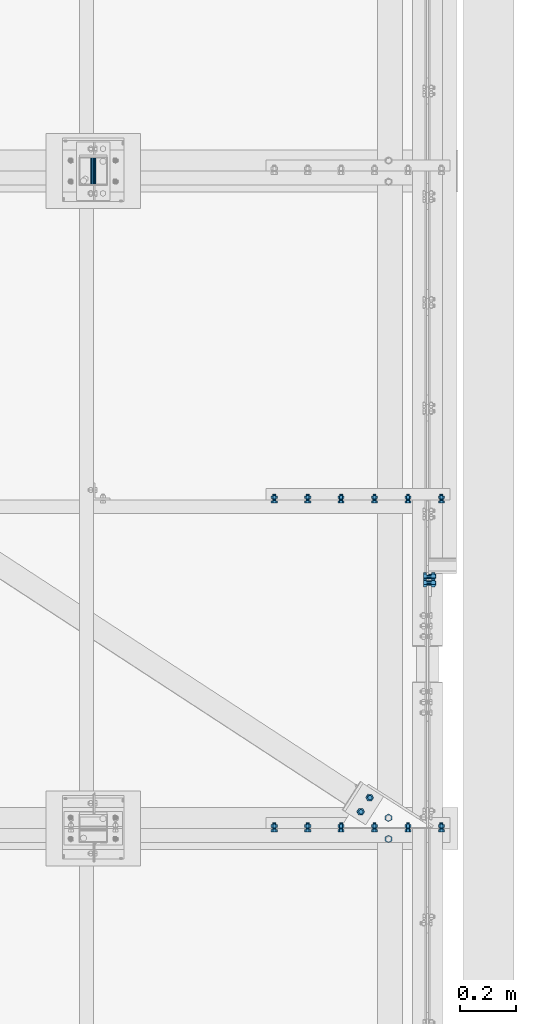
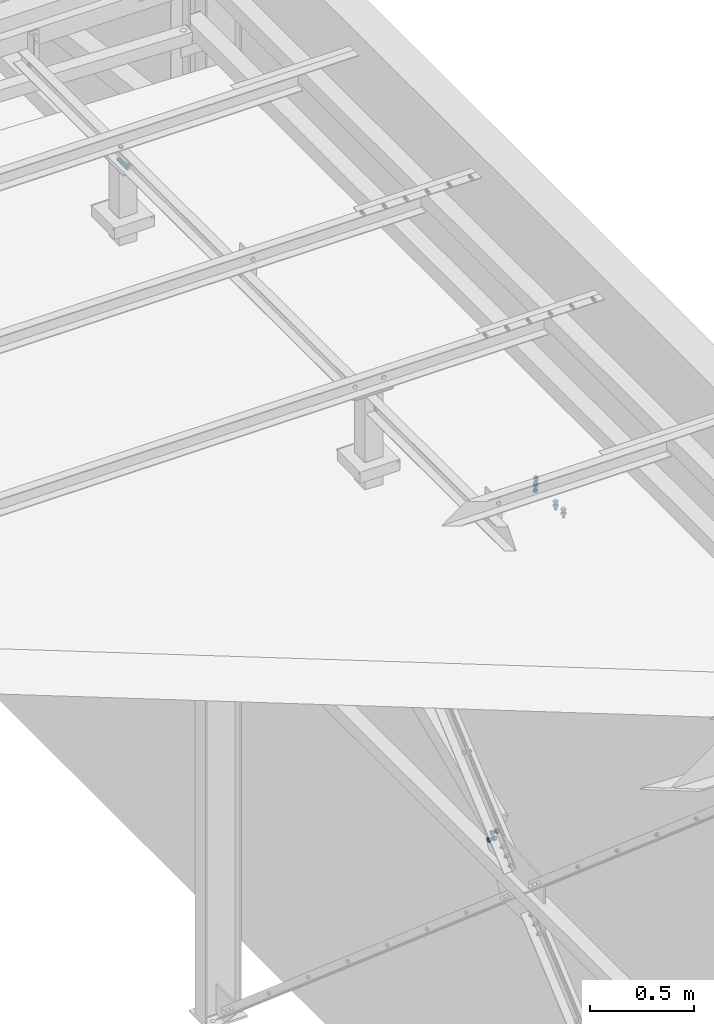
# One storey, part 347 of 3134: 6 mechanical fasteners, 6 elements without a shape of their own.
"""IFC2X3 building model written with IfcOpenShell, lengths in millimetres."""

import ifcopenshell
import ifcopenshell.guid

model = None  # the IFC model being written
_history = None  # IfcOwnerHistory: only IFC2X3 demands one
_inside = {}  # id of a spatial element -> (the spatial element, [elements in it])
_under = {}  # id of a project, library or spatial element -> (it, [spatial elements below it])
_declared = {}  # id of a project -> (the project, [libraries it declares])
_typed = {}  # id of a type object -> (the type object, [elements of that type])
_made_of = {}  # id of a material, layer set ... -> (it, [elements and type objects made of it])


def new_model(schema):
    """Start an empty IFC model of exactly this schema.

    Asked for "IFC4X3", IfcOpenShell would pick the latest addendum, in which some entities
    have other attributes; the version numbers below select the first issue.
    IFC2X3 requires an IfcOwnerHistory on every rooted entity: one is made here for all.
    """
    global model, _history
    if schema == "IFC4X3":
        model = ifcopenshell.file(schema_version=(4, 3, 0, 0))
    else:
        model = ifcopenshell.file(schema=schema)
    _inside.clear()
    _under.clear()
    _declared.clear()
    _typed.clear()
    _made_of.clear()
    _history = None
    if model.schema == "IFC2X3":
        org = make("IfcOrganization", Name="unknown")
        user = make(
            "IfcPersonAndOrganization",
            ThePerson=make("IfcPerson", FamilyName="unknown"),
            TheOrganization=org,
        )
        app = make(
            "IfcApplication",
            ApplicationDeveloper=org,
            Version="unknown",
            ApplicationFullName="unknown",
            ApplicationIdentifier="unknown",
        )
        _history = make(
            "IfcOwnerHistory",
            OwningUser=user,
            OwningApplication=app,
            ChangeAction="ADDED",
            CreationDate=0,
        )
    return model


def make(cls, **values):
    """One entity of the class cls with the attributes given. An attribute that is None is left unset."""
    return model.create_entity(
        cls, **{name: value for name, value in values.items() if value is not None}
    )


def rooted(cls, **values):
    """An entity with a GlobalId (a new one), such as an element, a storey or a relation."""
    return make(cls, GlobalId=ifcopenshell.guid.new(), OwnerHistory=_history, **values)


def si_unit(unit_type, name, prefix=None):
    """IfcSIUnit, for example si_unit("LENGTHUNIT", "METRE", prefix="MILLI")."""
    return make("IfcSIUnit", UnitType=unit_type, Prefix=prefix, Name=name)


def assignment(units):
    """IfcUnitAssignment: the units of a project."""
    return None if units is None else make("IfcUnitAssignment", Units=units)


def point(xyz):
    """IfcCartesianPoint."""
    return None if xyz is None else make("IfcCartesianPoint", Coordinates=xyz)


def direction(xyz):
    """IfcDirection."""
    return None if xyz is None else make("IfcDirection", DirectionRatios=xyz)


def frame(location, z_axis=None, x_axis=None):
    """IfcAxis2Placement3D, a coordinate frame: its origin and axes. An axis left out is left unset."""
    return make(
        "IfcAxis2Placement3D",
        Location=point(location),
        Axis=direction(z_axis),
        RefDirection=direction(x_axis),
    )


def origin_with_axes():
    """The frame at (0, 0, 0) with the z axis (0, 0, 1) and the x axis (1, 0, 0) written out."""
    return frame((0.0, 0.0, 0.0), z_axis=(0.0, 0.0, 1.0), x_axis=(1.0, 0.0, 0.0))


def place(relative_to, where):
    """IfcLocalPlacement: puts the frame where relative to a parent placement (None: the world)."""
    return make(
        "IfcLocalPlacement", PlacementRelTo=relative_to, RelativePlacement=where
    )


def context(
    kind, dimensions, precision=None, world=None, true_north=None, identifier=None
):
    """IfcGeometricRepresentationContext, for example the 3D "Model" context."""
    return make(
        "IfcGeometricRepresentationContext",
        ContextIdentifier=identifier,
        ContextType=kind,
        CoordinateSpaceDimension=dimensions,
        Precision=precision,
        WorldCoordinateSystem=world,
        TrueNorth=true_north,
    )


def subcontext(parent, identifier, kind, view, scale=None):
    """IfcGeometricRepresentationSubContext, for example "Body" below "Model"."""
    return make(
        "IfcGeometricRepresentationSubContext",
        ContextIdentifier=identifier,
        ContextType=kind,
        ParentContext=parent,
        TargetScale=scale,
        TargetView=view,
    )


def project(units=None, contexts=None):
    """IfcProject with its units and contexts."""
    return rooted(
        "IfcProject",
        Name="project",
        RepresentationContexts=contexts,
        UnitsInContext=assignment(units),
    )


def spatial(cls, under=None, at=None, **own):
    """A site, building, storey or space (cls), placed at a placement, below another one or the project."""
    s = rooted(cls, ObjectPlacement=at, **own)
    if under is not None:
        _under.setdefault(under.id(), (under, []))[1].append(s)
    return s


def faces_of(points, faces, orient=None, outer=None):
    """IfcFace entities. A face is a list of loops; a loop is a list of indices into points, from 0.

    orient and outer hold one flag for each loop. By default every Orientation is true, the
    first loop of a face is its IfcFaceOuterBound and the others are IfcFaceBound.
    """
    made = []
    for i, loops in enumerate(faces):
        bounds = []
        for j, loop in enumerate(loops):
            is_outer = j == 0 if outer is None else outer[i][j]
            bounds.append(
                make(
                    "IfcFaceOuterBound" if is_outer else "IfcFaceBound",
                    Bound=make("IfcPolyLoop", Polygon=[points[k] for k in loop]),
                    Orientation=True if orient is None else orient[i][j],
                )
            )
        made.append(make("IfcFace", Bounds=bounds))
    return made


def faceted_brep(points, faces, orient=None, outer=None, voids=None):
    """IfcFacetedBrep: a solid bounded by flat faces; with voids (closed shells), ...WithVoids."""
    shared = [point(p) for p in points]
    hull = make("IfcClosedShell", CfsFaces=faces_of(shared, faces, orient, outer))
    if voids is None:
        return make("IfcFacetedBrep", Outer=hull)
    return make(
        "IfcFacetedBrepWithVoids",
        Outer=hull,
        Voids=[
            make(cls, CfsFaces=faces_of(shared, fs, o, b)) for cls, fs, o, b in voids
        ],
    )


def shape(context_of_items, identifier, shape_type, items):
    """IfcShapeRepresentation: the items that make up one representation, for example the "Body"."""
    return make(
        "IfcShapeRepresentation",
        ContextOfItems=context_of_items,
        RepresentationIdentifier=identifier,
        RepresentationType=shape_type,
        Items=items,
    )


def source(mapping_origin, context_of_items, identifier, shape_type, items):
    """IfcRepresentationMap: a shape defined once, which mapped items show again and again."""
    return make(
        "IfcRepresentationMap",
        MappingOrigin=mapping_origin,
        MappedRepresentation=shape(context_of_items, identifier, shape_type, items),
    )


def transform(
    local_origin,
    x_axis=None,
    y_axis=None,
    z_axis=None,
    scale=None,
    scale2=None,
    scale3=None,
    uniform=True,
):
    """IfcCartesianTransformationOperator3D, or its non-uniform kind. x_axis, y_axis, z_axis: its Axis1, 2, 3."""
    if uniform:
        return make(
            "IfcCartesianTransformationOperator3D",
            Axis1=direction(x_axis),
            Axis2=direction(y_axis),
            LocalOrigin=point(local_origin),
            Scale=scale,
            Axis3=direction(z_axis),
        )
    return make(
        "IfcCartesianTransformationOperator3DnonUniform",
        Axis1=direction(x_axis),
        Axis2=direction(y_axis),
        LocalOrigin=point(local_origin),
        Scale=scale,
        Axis3=direction(z_axis),
        Scale2=scale2,
        Scale3=scale3,
    )


def mapped(mapping_source, mapping_target):
    """IfcMappedItem: shows the shape of a source again, moved by a transform."""
    return make(
        "IfcMappedItem", MappingSource=mapping_source, MappingTarget=mapping_target
    )


def material(Name=None, Category=None):
    """IfcMaterial."""
    return make("IfcMaterial", Name=Name, Category=Category)


def made_of(thing, what):
    """Note that an element or type object is made of a material, layer set ...; save() writes the relation."""
    if what is not None:
        _made_of.setdefault(what.id(), (what, []))[1].append(thing)
    return thing


def type_object(cls, material=None, **own):
    """A type object (cls), such as IfcWallType, which elements share."""
    return made_of(rooted(cls, **own), material)


def element(
    cls,
    number,
    at=None,
    inside=None,
    cuts=None,
    type_object=None,
    material=None,
    context=None,
    identifier="Body",
    shape_type=None,
    held_by="IfcProductDefinitionShape",
    body=None,
    shapes=None,
    **own,
):
    """One element of the class cls, such as IfcWall. Its Tag is "e" and its number.

    at: its placement. inside: the storey or other place that contains it. cuts: it is an
    opening in that element (IfcRelVoidsElement). A single representation is given by context,
    identifier, shape_type and body (its items); several are given by shapes. held_by: the class
    of the entity that holds the representations. save() writes the other relations.
    """
    e = rooted(cls, Tag="e%d" % number, ObjectPlacement=at, **own)
    if body is not None:
        shapes = [shape(context, identifier, shape_type, body)]
    if shapes is not None:
        e.Representation = make(held_by, Representations=shapes)
    if inside is not None:
        _inside.setdefault(inside.id(), (inside, []))[1].append(e)
    if cuts is not None:
        rooted(
            "IfcRelVoidsElement", RelatingBuildingElement=cuts, RelatedOpeningElement=e
        )
    if type_object is not None:
        _typed.setdefault(type_object.id(), (type_object, []))[1].append(e)
    return made_of(e, material)


def aggregate(whole, parts):
    """IfcRelAggregates: a whole, such as a stair, and the parts it consists of."""
    return rooted("IfcRelAggregates", RelatingObject=whole, RelatedObjects=parts)


def save(model, path):
    """Write the relations noted so far, then the file.

    IfcRelAggregates (storeys below a building ...), IfcRelContainedInSpatialStructure (elements
    in a storey), IfcRelDefinesByType, IfcRelAssociatesMaterial and IfcRelDeclares: one each for
    every whole, place, type object, material and project.
    """
    for whole, parts in _under.values():
        aggregate(whole, parts)
    for where, things in _inside.values():
        rooted(
            "IfcRelContainedInSpatialStructure",
            RelatedElements=things,
            RelatingStructure=where,
        )
    for kind, things in _typed.values():
        rooted("IfcRelDefinesByType", RelatedObjects=things, RelatingType=kind)
    for what, things in _made_of.values():
        rooted("IfcRelAssociatesMaterial", RelatedObjects=things, RelatingMaterial=what)
    for by, libraries in _declared.values():
        rooted("IfcRelDeclares", RelatingContext=by, RelatedDefinitions=libraries)
    model.write(path)


model = new_model("IFC2X3")

# Units and contexts
model_context = context("Model", 3, precision=1e-05, world=origin_with_axes())
body_context = subcontext(model_context, "Body", "Model", "MODEL_VIEW")
ifc_project = project(units=[si_unit("LENGTHUNIT", "METRE", prefix="MILLI"), si_unit("AREAUNIT", "SQUARE_METRE"), si_unit("VOLUMEUNIT", "CUBIC_METRE"), si_unit("MASSUNIT", "GRAM", prefix="KILO"), si_unit("TIMEUNIT", "SECOND"), si_unit("PLANEANGLEUNIT", "RADIAN"), si_unit("SOLIDANGLEUNIT", "STERADIAN"), si_unit("THERMODYNAMICTEMPERATUREUNIT", "DEGREE_CELSIUS"), si_unit("LUMINOUSINTENSITYUNIT", "LUMEN")], contexts=[model_context])

# Site, building, storey
site_placement = place(None, origin_with_axes())
site = spatial("IfcSite", under=ifc_project, at=site_placement, CompositionType="ELEMENT")
building_placement = place(site_placement, origin_with_axes())
building = spatial("IfcBuilding", under=site, at=building_placement, Name="Undefined", CompositionType="ELEMENT")
storey_placement = place(building_placement, origin_with_axes())
storey = spatial("IfcBuildingStorey", under=building, at=storey_placement, Name="Undefined", CompositionType="ELEMENT", Elevation=0.0)

# Assembly, mechanical fastener
assembly_1_placement = place(storey_placement, origin_with_axes())
assembly_1 = element("IfcElementAssembly", 1, at=assembly_1_placement, inside=storey, AssemblyPlace="NOTDEFINED", PredefinedType="RIGID_FRAME")
ifc_material = material(Name="8.8")
mechanical_fastener_type = type_object("IfcMechanicalFastenerType", Name="Bolt assembly")
shared_shape_1 = source(origin_with_axes(), body_context, "Body", "Brep", [
    faceted_brep([(9.0, -50.0, 0.0), (7.79422863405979, -50.0, 4.50000000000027), (4.49999999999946, -50.0, 7.79422863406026), (-9.3270238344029e-13, -50.0, 9.0), (-4.50000000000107, -50.0, 7.79422863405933), (-7.79422863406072, -50.0, 4.49999999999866), (-9.0, -50.0, -1.86540476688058e-12), (-7.79422863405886, -50.0, -4.50000000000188), (-4.49999999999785, -50.0, -7.79422863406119), (2.78811514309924e-12, -50.0, -9.0), (4.50000000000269, -50.0, -7.7942286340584), (7.79422863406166, -50.0, -4.49999999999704), (7.79422863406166, 50.1, -4.49999999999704), (4.50000000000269, 50.1, -7.7942286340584), (2.78811514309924e-12, 50.1, -9.0), (-4.49999999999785, 50.1, -7.79422863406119), (-7.79422863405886, 50.1, -4.50000000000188), (-9.0, 50.1, -1.86540476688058e-12), (-7.79422863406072, 50.1, 4.49999999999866), (-4.50000000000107, 50.1, 7.79422863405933), (-9.3270238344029e-13, 50.1, 9.0), (4.49999999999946, 50.1, 7.79422863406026), (7.79422863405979, 50.1, 4.50000000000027), (9.0, 50.1, 0.0)], [[[0, 1, 2, 3, 4, 5, 6, 7, 8, 9, 10, 11]], [[12, 13, 14, 15, 16, 17, 18, 19, 20, 21, 22, 23]], [[0, 23, 22, 1]], [[1, 22, 21, 2]], [[2, 21, 20, 3]], [[3, 20, 19, 4]], [[4, 19, 18, 5]], [[5, 18, 17, 6]], [[6, 17, 16, 7]], [[7, 16, 15, 8]], [[8, 15, 14, 9]], [[9, 14, 13, 10]], [[10, 13, 12, 11]], [[11, 12, 23, 0]]]),
])
mechanical_fastener_1_placement = place(assembly_1_placement, frame((78025.0, 12370.0, 5730.0), z_axis=(-1.0, 0.0, 0.0), x_axis=(0.0, 0.0, 1.0)))
mechanical_fastener_1 = element("IfcMechanicalFastener", 2, at=mechanical_fastener_1_placement, type_object=mechanical_fastener_type, material=ifc_material, Name="Bolt assembly", NominalDiameter=16.0, NominalLength=100.0, context=body_context, shape_type="MappedRepresentation", body=[
    mapped(shared_shape_1, transform((0.0, 0.0, 0.0))),
])
aggregate(assembly_1, [mechanical_fastener_1])

assembly_2_placement = place(storey_placement, origin_with_axes())
assembly_2 = element("IfcElementAssembly", 3, at=assembly_2_placement, inside=storey, AssemblyPlace="NOTDEFINED", PredefinedType="RIGID_FRAME")
shared_shape_2 = source(origin_with_axes(), body_context, "Body", "Brep", [
    faceted_brep([(13.856406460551, -12.9999980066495, 0.0), (6.92820323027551, -12.9999980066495, 12.0), (-6.92820323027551, -12.9999980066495, 12.0), (-13.856406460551, -12.9999980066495, 1.69692038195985e-15), (-6.92820323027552, -12.9999980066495, -12.0), (6.9282032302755, -12.9999980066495, -12.0), (6.9282032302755, -2.99999800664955, -12.0), (-6.92820323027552, -2.99999800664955, -12.0), (-13.856406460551, -2.99999800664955, 1.69692038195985e-15), (-6.92820323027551, -2.99999800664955, 12.0), (6.92820323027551, -2.99999800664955, 12.0), (13.856406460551, -2.99999800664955, 0.0), (8.0, -2.99999800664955, 0.0), (6.92820323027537, -2.99999800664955, 4.00000000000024), (3.99999999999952, -2.99999800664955, 6.92820323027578), (-8.29068785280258e-13, -2.99999800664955, 8.0), (-4.00000000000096, -2.99999800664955, 6.92820323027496), (-6.9282032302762, -2.99999800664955, 3.99999999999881), (-8.0, -2.99999800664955, -1.65813757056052e-12), (-6.92820323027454, -2.99999800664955, -4.00000000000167), (-3.99999999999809, -2.99999800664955, -6.92820323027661), (2.47832457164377e-12, -2.99999800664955, -8.0), (4.00000000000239, -2.99999800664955, -6.92820323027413), (6.92820323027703, -2.99999800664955, -3.99999999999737), (6.92820323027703, 32.0000019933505, -3.99999999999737), (4.00000000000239, 32.0000019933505, -6.92820323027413), (2.47832457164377e-12, 32.0000019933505, -8.0), (-3.99999999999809, 32.0000019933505, -6.92820323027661), (-6.92820323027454, 32.0000019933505, -4.00000000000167), (-8.0, 32.0000019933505, -1.65813757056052e-12), (-6.9282032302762, 32.0000019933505, 3.99999999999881), (-4.00000000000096, 32.0000019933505, 6.92820323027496), (-8.29068785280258e-13, 32.0000019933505, 8.0), (3.99999999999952, 32.0000019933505, 6.92820323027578), (6.92820323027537, 32.0000019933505, 4.00000000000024), (8.0, 32.0000019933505, 0.0), (13.856406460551, 14.9999995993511, 0.0), (6.92820323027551, 14.9999995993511, 12.0), (-6.92820323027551, 14.9999995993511, 12.0), (-13.856406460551, 14.9999995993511, 1.69692038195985e-15), (-6.92820323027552, 14.9999995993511, -12.0), (6.9282032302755, 14.9999995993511, -12.0), (6.9282032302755, 27.9999995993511, -12.0), (-6.92820323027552, 27.9999995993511, -12.0), (-13.856406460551, 27.9999995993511, 1.69692038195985e-15), (-6.92820323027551, 27.9999995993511, 12.0), (6.92820323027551, 27.9999995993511, 12.0), (13.856406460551, 27.9999995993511, 0.0)], [[[0, 1, 2, 3, 4, 5]], [[6, 7, 8, 9, 10, 11]], [[0, 11, 10, 1]], [[1, 10, 9, 2]], [[2, 9, 8, 3]], [[3, 8, 7, 4]], [[4, 7, 6, 5]], [[5, 6, 11, 0]], [[12, 13, 14, 15, 16, 17, 18, 19, 20, 21, 22, 23]], [[24, 25, 26, 27, 28, 29, 30, 31, 32, 33, 34, 35]], [[12, 35, 34, 13]], [[13, 34, 33, 14]], [[14, 33, 32, 15]], [[15, 32, 31, 16]], [[16, 31, 30, 17]], [[17, 30, 29, 18]], [[18, 29, 28, 19]], [[19, 28, 27, 20]], [[20, 27, 26, 21]], [[21, 26, 25, 22]], [[22, 25, 24, 23]], [[23, 24, 35, 12]], [[36, 37, 38, 39, 40, 41]], [[42, 43, 44, 45, 46, 47]], [[36, 47, 46, 37]], [[37, 46, 45, 38]], [[38, 45, 44, 39]], [[39, 44, 43, 40]], [[40, 43, 42, 41]], [[41, 42, 47, 36]]]),
    faceted_brep([(9.0, 4.90000583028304, 0.0), (7.79422863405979, 4.90000583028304, 4.50000000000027), (4.49999999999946, 4.90000583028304, 7.79422863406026), (-9.3270238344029e-13, 4.90000583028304, 9.0), (-4.50000000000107, 4.90000583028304, 7.79422863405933), (-7.79422863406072, 4.90000583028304, 4.49999999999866), (-9.0, 4.90000583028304, -1.86540476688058e-12), (-7.79422863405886, 4.90000583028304, -4.50000000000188), (-4.49999999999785, 4.90000583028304, -7.79422863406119), (2.78811514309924e-12, 4.90000583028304, -9.0), (4.50000000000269, 4.90000583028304, -7.7942286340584), (7.79422863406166, 4.90000583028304, -4.49999999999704), (7.79422863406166, 14.9999995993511, -4.49999999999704), (4.50000000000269, 14.9999995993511, -7.7942286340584), (2.78811514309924e-12, 14.9999995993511, -9.0), (-4.49999999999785, 14.9999995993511, -7.79422863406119), (-7.79422863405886, 14.9999995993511, -4.50000000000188), (-9.0, 14.9999995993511, -1.86540476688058e-12), (-7.79422863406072, 14.9999995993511, 4.49999999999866), (-4.50000000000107, 14.9999995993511, 7.79422863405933), (-9.3270238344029e-13, 14.9999995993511, 9.0), (4.49999999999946, 14.9999995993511, 7.79422863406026), (7.79422863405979, 14.9999995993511, 4.50000000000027), (9.0, 14.9999995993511, 0.0), (9.0, -2.89999800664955, 0.0), (7.79422863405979, -2.89999800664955, 4.50000000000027), (4.49999999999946, -2.89999800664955, 7.79422863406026), (-9.3270238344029e-13, -2.89999800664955, 9.0), (-4.50000000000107, -2.89999800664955, 7.79422863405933), (-7.79422863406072, -2.89999800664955, 4.49999999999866), (-9.0, -2.89999800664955, -1.86540476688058e-12), (-7.79422863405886, -2.89999800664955, -4.50000000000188), (-4.49999999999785, -2.89999800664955, -7.79422863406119), (2.78811514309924e-12, -2.89999800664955, -9.0), (4.50000000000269, -2.89999800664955, -7.7942286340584), (7.79422863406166, -2.89999800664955, -4.49999999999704), (7.79422863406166, 5.10000199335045, -4.49999999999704), (4.50000000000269, 5.10000199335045, -7.7942286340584), (2.78811514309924e-12, 5.10000199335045, -9.0), (-4.49999999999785, 5.10000199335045, -7.79422863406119), (-7.79422863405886, 5.10000199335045, -4.50000000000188), (-9.0, 5.10000199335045, -1.86540476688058e-12), (-7.79422863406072, 5.10000199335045, 4.49999999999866), (-4.50000000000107, 5.10000199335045, 7.79422863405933), (-9.3270238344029e-13, 5.10000199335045, 9.0), (4.49999999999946, 5.10000199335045, 7.79422863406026), (7.79422863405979, 5.10000199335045, 4.50000000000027), (9.0, 5.10000199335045, 0.0)], [[[0, 1, 2, 3, 4, 5, 6, 7, 8, 9, 10, 11]], [[12, 13, 14, 15, 16, 17, 18, 19, 20, 21, 22, 23]], [[0, 23, 22, 1]], [[1, 22, 21, 2]], [[2, 21, 20, 3]], [[3, 20, 19, 4]], [[4, 19, 18, 5]], [[5, 18, 17, 6]], [[6, 17, 16, 7]], [[7, 16, 15, 8]], [[8, 15, 14, 9]], [[9, 14, 13, 10]], [[10, 13, 12, 11]], [[11, 12, 23, 0]], [[24, 25, 26, 27, 28, 29, 30, 31, 32, 33, 34, 35]], [[36, 37, 38, 39, 40, 41, 42, 43, 44, 45, 46, 47]], [[24, 47, 46, 25]], [[25, 46, 45, 26]], [[26, 45, 44, 27]], [[27, 44, 43, 28]], [[28, 43, 42, 29]], [[29, 42, 41, 30]], [[30, 41, 40, 31]], [[31, 40, 39, 32]], [[32, 39, 38, 33]], [[33, 38, 37, 34]], [[34, 37, 36, 35]], [[35, 36, 47, 24]]]),
])
mechanical_fastener_2_placement = place(assembly_2_placement, frame((79223.9999980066, 10890.9597824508, 2285.42786129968), z_axis=(0.0, -0.917802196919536, -0.397037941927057), x_axis=(0.0, 0.397037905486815, -0.917802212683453)))
mechanical_fastener_2 = element("IfcMechanicalFastener", 4, at=mechanical_fastener_2_placement, type_object=mechanical_fastener_type, material=ifc_material, Name="Bolt assembly", NominalDiameter=16.0, NominalLength=35.0, context=body_context, shape_type="MappedRepresentation", body=[
    mapped(shared_shape_2, transform((0.0, 0.0, 0.0))),
    mapped(shared_shape_2, transform((59.9999999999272, 0.0, 5.40239852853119e-10))),
])
aggregate(assembly_2, [mechanical_fastener_2])

assembly_3_placement = place(storey_placement, origin_with_axes())
assembly_3 = element("IfcElementAssembly", 5, at=assembly_3_placement, inside=storey, AssemblyPlace="NOTDEFINED", PredefinedType="RIGID_FRAME")
shared_shape_3 = source(origin_with_axes(), body_context, "Body", "Brep", [
    faceted_brep([(13.856406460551, -15.0000144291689, 0.0), (6.92820323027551, -15.0000144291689, 12.0), (-6.92820323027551, -15.0000144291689, 12.0), (-13.856406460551, -15.0000144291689, 1.69692038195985e-15), (-6.92820323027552, -15.0000144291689, -12.0), (6.9282032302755, -15.0000144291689, -12.0), (6.9282032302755, -5.00001442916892, -12.0), (-6.92820323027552, -5.00001442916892, -12.0), (-13.856406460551, -5.00001442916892, 1.69692038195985e-15), (-6.92820323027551, -5.00001442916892, 12.0), (6.92820323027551, -5.00001442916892, 12.0), (13.856406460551, -5.00001442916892, 0.0), (8.0, -5.00001442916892, 0.0), (6.92820323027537, -5.00001442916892, 4.00000000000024), (3.99999999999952, -5.00001442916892, 6.92820323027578), (-8.29068785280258e-13, -5.00001442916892, 8.0), (-4.00000000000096, -5.00001442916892, 6.92820323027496), (-6.9282032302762, -5.00001442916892, 3.99999999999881), (-8.0, -5.00001442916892, -1.65813757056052e-12), (-6.92820323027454, -5.00001442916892, -4.00000000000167), (-3.99999999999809, -5.00001442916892, -6.92820323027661), (2.47832457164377e-12, -5.00001442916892, -8.0), (4.00000000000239, -5.00001442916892, -6.92820323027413), (6.92820323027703, -5.00001442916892, -3.99999999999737), (6.92820323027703, 35.0000000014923, -3.99999999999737), (4.00000000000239, 35.0000000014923, -6.92820323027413), (2.47832457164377e-12, 35.0000000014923, -8.0), (-3.99999999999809, 35.0000000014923, -6.92820323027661), (-6.92820323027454, 35.0000000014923, -4.00000000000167), (-8.0, 35.0000000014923, -1.65813757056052e-12), (-6.9282032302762, 35.0000000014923, 3.99999999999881), (-4.00000000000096, 35.0000000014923, 6.92820323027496), (-8.29068785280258e-13, 35.0000000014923, 8.0), (3.99999999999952, 35.0000000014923, 6.92820323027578), (6.92820323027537, 35.0000000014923, 4.00000000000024), (8.0, 35.0000000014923, 0.0), (13.856406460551, 14.9999995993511, 0.0), (6.92820323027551, 14.9999995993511, 12.0), (-6.92820323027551, 14.9999995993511, 12.0), (-13.856406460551, 14.9999995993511, 1.69692038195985e-15), (-6.92820323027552, 14.9999995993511, -12.0), (6.9282032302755, 14.9999995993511, -12.0), (6.9282032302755, 27.9999995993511, -12.0), (-6.92820323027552, 27.9999995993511, -12.0), (-13.856406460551, 27.9999995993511, 1.69692038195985e-15), (-6.92820323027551, 27.9999995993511, 12.0), (6.92820323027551, 27.9999995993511, 12.0), (13.856406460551, 27.9999995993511, 0.0)], [[[0, 1, 2, 3, 4, 5]], [[6, 7, 8, 9, 10, 11]], [[0, 11, 10, 1]], [[1, 10, 9, 2]], [[2, 9, 8, 3]], [[3, 8, 7, 4]], [[4, 7, 6, 5]], [[5, 6, 11, 0]], [[12, 13, 14, 15, 16, 17, 18, 19, 20, 21, 22, 23]], [[24, 25, 26, 27, 28, 29, 30, 31, 32, 33, 34, 35]], [[12, 35, 34, 13]], [[13, 34, 33, 14]], [[14, 33, 32, 15]], [[15, 32, 31, 16]], [[16, 31, 30, 17]], [[17, 30, 29, 18]], [[18, 29, 28, 19]], [[19, 28, 27, 20]], [[20, 27, 26, 21]], [[21, 26, 25, 22]], [[22, 25, 24, 23]], [[23, 24, 35, 12]], [[36, 37, 38, 39, 40, 41]], [[42, 43, 44, 45, 46, 47]], [[36, 47, 46, 37]], [[37, 46, 45, 38]], [[38, 45, 44, 39]], [[39, 44, 43, 40]], [[40, 43, 42, 41]], [[41, 42, 47, 36]]]),
    faceted_brep([(9.0, -4.90001442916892, 0.0), (7.79422863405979, -4.90001442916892, 4.50000000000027), (4.49999999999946, -4.90001442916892, 7.79422863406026), (-9.3270238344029e-13, -4.90001442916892, 9.0), (-4.50000000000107, -4.90001442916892, 7.79422863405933), (-7.79422863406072, -4.90001442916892, 4.49999999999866), (-9.0, -4.90001442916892, -1.86540476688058e-12), (-7.79422863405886, -4.90001442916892, -4.50000000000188), (-4.49999999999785, -4.90001442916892, -7.79422863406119), (2.78811514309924e-12, -4.90001442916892, -9.0), (4.50000000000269, -4.90001442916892, -7.7942286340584), (7.79422863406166, -4.90001442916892, -4.49999999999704), (7.79422863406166, 5.10000199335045, -4.49999999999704), (4.50000000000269, 5.10000199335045, -7.7942286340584), (2.78811514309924e-12, 5.10000199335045, -9.0), (-4.49999999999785, 5.10000199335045, -7.79422863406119), (-7.79422863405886, 5.10000199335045, -4.50000000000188), (-9.0, 5.10000199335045, -1.86540476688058e-12), (-7.79422863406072, 5.10000199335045, 4.49999999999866), (-4.50000000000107, 5.10000199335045, 7.79422863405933), (-9.3270238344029e-13, 5.10000199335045, 9.0), (4.49999999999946, 5.10000199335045, 7.79422863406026), (7.79422863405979, 5.10000199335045, 4.50000000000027), (9.0, 5.10000199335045, 0.0), (9.0, 4.90000583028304, 0.0), (7.79422863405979, 4.90000583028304, 4.50000000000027), (4.49999999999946, 4.90000583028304, 7.79422863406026), (-9.3270238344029e-13, 4.90000583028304, 9.0), (-4.50000000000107, 4.90000583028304, 7.79422863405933), (-7.79422863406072, 4.90000583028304, 4.49999999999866), (-9.0, 4.90000583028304, -1.86540476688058e-12), (-7.79422863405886, 4.90000583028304, -4.50000000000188), (-4.49999999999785, 4.90000583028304, -7.79422863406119), (2.78811514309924e-12, 4.90000583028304, -9.0), (4.50000000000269, 4.90000583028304, -7.7942286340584), (7.79422863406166, 4.90000583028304, -4.49999999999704), (7.79422863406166, 14.9999995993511, -4.49999999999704), (4.50000000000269, 14.9999995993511, -7.7942286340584), (2.78811514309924e-12, 14.9999995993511, -9.0), (-4.49999999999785, 14.9999995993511, -7.79422863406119), (-7.79422863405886, 14.9999995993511, -4.50000000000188), (-9.0, 14.9999995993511, -1.86540476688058e-12), (-7.79422863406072, 14.9999995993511, 4.49999999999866), (-4.50000000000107, 14.9999995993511, 7.79422863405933), (-9.3270238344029e-13, 14.9999995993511, 9.0), (4.49999999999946, 14.9999995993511, 7.79422863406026), (7.79422863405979, 14.9999995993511, 4.50000000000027), (9.0, 14.9999995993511, 0.0)], [[[0, 1, 2, 3, 4, 5, 6, 7, 8, 9, 10, 11]], [[12, 13, 14, 15, 16, 17, 18, 19, 20, 21, 22, 23]], [[0, 23, 22, 1]], [[1, 22, 21, 2]], [[2, 21, 20, 3]], [[3, 20, 19, 4]], [[4, 19, 18, 5]], [[5, 18, 17, 6]], [[6, 17, 16, 7]], [[7, 16, 15, 8]], [[8, 15, 14, 9]], [[9, 14, 13, 10]], [[10, 13, 12, 11]], [[11, 12, 23, 0]], [[24, 25, 26, 27, 28, 29, 30, 31, 32, 33, 34, 35]], [[36, 37, 38, 39, 40, 41, 42, 43, 44, 45, 46, 47]], [[24, 47, 46, 25]], [[25, 46, 45, 26]], [[26, 45, 44, 27]], [[27, 44, 43, 28]], [[28, 43, 42, 29]], [[29, 42, 41, 30]], [[30, 41, 40, 31]], [[31, 40, 39, 32]], [[32, 39, 38, 33]], [[33, 38, 37, 34]], [[34, 37, 36, 35]], [[35, 36, 47, 24]]]),
])
mechanical_fastener_3_placement = place(assembly_3_placement, frame((79017.1514136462, 10120.4448838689, 4880.92071447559), z_axis=(-0.84313053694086, 0.537073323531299, 0.0261370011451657), x_axis=(-0.53681544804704, -0.843535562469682, 0.0166412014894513)))
mechanical_fastener_3 = element("IfcMechanicalFastener", 6, at=mechanical_fastener_3_placement, type_object=mechanical_fastener_type, material=ifc_material, Name="Bolt assembly", NominalDiameter=16.0, NominalLength=40.0, context=body_context, shape_type="MappedRepresentation", body=[
    mapped(shared_shape_3, transform((0.0, 0.0, 0.0))),
    mapped(shared_shape_3, transform((59.9999999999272, 0.0, 5.40239852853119e-10))),
])
aggregate(assembly_3, [mechanical_fastener_3])

assembly_4_placement = place(storey_placement, origin_with_axes())
assembly_4 = element("IfcElementAssembly", 7, at=assembly_4_placement, inside=storey, Name="UPN260", AssemblyPlace="NOTDEFINED", PredefinedType="RIGID_FRAME")
shared_shape_4 = source(origin_with_axes(), body_context, "Body", "Brep", [
    faceted_brep([(13.856406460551, -10.0, 0.0), (6.92820323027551, -10.0, 12.0), (-6.92820323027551, -10.0, 12.0), (-13.856406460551, -10.0, 1.69692038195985e-15), (-6.92820323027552, -10.0, -12.0), (6.9282032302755, -10.0, -12.0), (6.9282032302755, 0.0, -12.0), (-6.92820323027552, 0.0, -12.0), (-13.856406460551, 0.0, 1.69692038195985e-15), (-6.92820323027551, 0.0, 12.0), (6.92820323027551, 0.0, 12.0), (13.856406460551, 0.0, 0.0), (8.0, 0.0, 0.0), (6.92820323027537, 0.0, 4.00000000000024), (3.99999999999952, 0.0, 6.92820323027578), (-8.29068785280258e-13, 0.0, 8.0), (-4.00000000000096, 0.0, 6.92820323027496), (-6.9282032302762, 0.0, 3.99999999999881), (-8.0, 0.0, -1.65813757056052e-12), (-6.92820323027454, 0.0, -4.00000000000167), (-3.99999999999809, 0.0, -6.92820323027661), (2.47832457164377e-12, 0.0, -8.0), (4.00000000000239, 0.0, -6.92820323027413), (6.92820323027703, 0.0, -3.99999999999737), (6.92820323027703, 45.0, -3.99999999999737), (4.00000000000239, 45.0, -6.92820323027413), (2.47832457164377e-12, 45.0, -8.0), (-3.99999999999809, 45.0, -6.92820323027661), (-6.92820323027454, 45.0, -4.00000000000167), (-8.0, 45.0, -1.65813757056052e-12), (-6.9282032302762, 45.0, 3.99999999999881), (-4.00000000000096, 45.0, 6.92820323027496), (-8.29068785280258e-13, 45.0, 8.0), (3.99999999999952, 45.0, 6.92820323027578), (6.92820323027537, 45.0, 4.00000000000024), (8.0, 45.0, 0.0), (13.856406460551, 13.9999999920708, 0.0), (6.92820323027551, 13.9999999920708, 12.0), (-6.92820323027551, 13.9999999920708, 12.0), (-13.856406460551, 13.9999999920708, 1.69692038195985e-15), (-6.92820323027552, 13.9999999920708, -12.0), (6.9282032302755, 13.9999999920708, -12.0), (6.9282032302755, 27.0, -12.0), (-6.92820323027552, 27.0, -12.0), (-13.856406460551, 27.0, 1.69692038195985e-15), (-6.92820323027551, 27.0, 12.0), (6.92820323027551, 27.0, 12.0), (13.856406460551, 27.0, 0.0)], [[[0, 1, 2, 3, 4, 5]], [[6, 7, 8, 9, 10, 11]], [[0, 11, 10, 1]], [[1, 10, 9, 2]], [[2, 9, 8, 3]], [[3, 8, 7, 4]], [[4, 7, 6, 5]], [[5, 6, 11, 0]], [[12, 13, 14, 15, 16, 17, 18, 19, 20, 21, 22, 23]], [[24, 25, 26, 27, 28, 29, 30, 31, 32, 33, 34, 35]], [[12, 35, 34, 13]], [[13, 34, 33, 14]], [[14, 33, 32, 15]], [[15, 32, 31, 16]], [[16, 31, 30, 17]], [[17, 30, 29, 18]], [[18, 29, 28, 19]], [[19, 28, 27, 20]], [[20, 27, 26, 21]], [[21, 26, 25, 22]], [[22, 25, 24, 23]], [[23, 24, 35, 12]], [[36, 37, 38, 39, 40, 41]], [[42, 43, 44, 45, 46, 47]], [[36, 47, 46, 37]], [[37, 46, 45, 38]], [[38, 45, 44, 39]], [[39, 44, 43, 40]], [[40, 43, 42, 41]], [[41, 42, 47, 36]]]),
    faceted_brep([(9.0, -3.46568413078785e-07, 0.0), (7.79422863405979, -3.46568413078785e-07, 4.50000000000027), (4.49999999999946, -3.46568413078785e-07, 7.79422863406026), (-9.3270238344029e-13, -3.46568413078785e-07, 9.0), (-4.50000000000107, -3.46568413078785e-07, 7.79422863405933), (-7.79422863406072, -3.46568413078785e-07, 4.49999999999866), (-9.0, -3.46568413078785e-07, -1.86540476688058e-12), (-7.79422863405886, -3.46568413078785e-07, -4.50000000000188), (-4.49999999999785, -3.46568413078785e-07, -7.79422863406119), (2.78811514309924e-12, -3.46568413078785e-07, -9.0), (4.50000000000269, -3.46568413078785e-07, -7.7942286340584), (7.79422863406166, -3.46568413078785e-07, -4.49999999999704), (7.79422863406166, 14.1000000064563, -4.49999999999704), (4.50000000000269, 14.1000000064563, -7.7942286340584), (2.78811514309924e-12, 14.1000000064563, -9.0), (-4.49999999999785, 14.1000000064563, -7.79422863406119), (-7.79422863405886, 14.1000000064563, -4.50000000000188), (-9.0, 14.1000000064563, -1.86540476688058e-12), (-7.79422863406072, 14.1000000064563, 4.49999999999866), (-4.50000000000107, 14.1000000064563, 7.79422863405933), (-9.3270238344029e-13, 14.1000000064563, 9.0), (4.49999999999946, 14.1000000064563, 7.79422863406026), (7.79422863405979, 14.1000000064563, 4.50000000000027), (9.0, 14.1000000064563, 0.0)], [[[0, 1, 2, 3, 4, 5, 6, 7, 8, 9, 10, 11]], [[12, 13, 14, 15, 16, 17, 18, 19, 20, 21, 22, 23]], [[0, 23, 22, 1]], [[1, 22, 21, 2]], [[2, 21, 20, 3]], [[3, 20, 19, 4]], [[4, 19, 18, 5]], [[5, 18, 17, 6]], [[6, 17, 16, 7]], [[7, 16, 15, 8]], [[8, 15, 14, 9]], [[9, 14, 13, 10]], [[10, 13, 12, 11]], [[11, 12, 23, 0]]]),
])
mechanical_fastener_4_placement = place(assembly_4_placement, frame((79085.0, 9972.0, 4783.722486), z_axis=(-1.0, 0.0, 0.0), x_axis=(0.0, 1.0, 0.0)))
mechanical_fastener_4 = element("IfcMechanicalFastener", 8, at=mechanical_fastener_4_placement, type_object=mechanical_fastener_type, material=ifc_material, Name="Bolt assembly", NominalDiameter=16.0, NominalLength=45.0, context=body_context, shape_type="MappedRepresentation", body=[
    mapped(shared_shape_4, transform((0.0, 0.0, 0.0))),
    mapped(shared_shape_4, transform((76.0, 0.0, 0.0))),
])
aggregate(assembly_4, [mechanical_fastener_4])

assembly_5_placement = place(storey_placement, origin_with_axes())
assembly_5 = element("IfcElementAssembly", 9, at=assembly_5_placement, inside=storey, AssemblyPlace="NOTDEFINED", PredefinedType="RIGID_FRAME")
shared_shape_5 = source(origin_with_axes(), body_context, "Body", "Brep", [
    faceted_brep([(10.9696551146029, -12.0, 0.0), (5.48482755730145, -12.0, 9.5), (-5.48482755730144, -12.0, 9.5), (-10.9696551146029, -12.0, 1.34339530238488e-15), (-5.48482755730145, -12.0, -9.5), (5.48482755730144, -12.0, -9.50000000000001), (5.48482755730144, -4.0, -9.50000000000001), (-5.48482755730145, -4.0, -9.5), (-10.9696551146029, -4.0, 1.34339530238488e-15), (-5.48482755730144, -4.0, 9.5), (5.48482755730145, -4.0, 9.5), (10.9696551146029, -4.0, 0.0), (6.0, -4.0, 0.0), (5.19615242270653, -4.0, 3.00000000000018), (2.99999999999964, -4.0, 5.19615242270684), (-6.21801588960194e-13, -4.0, 6.0), (-3.00000000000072, -4.0, 5.19615242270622), (-5.19615242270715, -4.0, 2.9999999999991), (-6.0, -4.0, -1.24360317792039e-12), (-5.19615242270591, -4.0, -3.00000000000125), (-2.99999999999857, -4.0, -5.19615242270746), (1.85874342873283e-12, -4.0, -6.0), (3.00000000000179, -4.0, -5.1961524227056), (5.19615242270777, -4.0, -2.99999999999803), (5.19615242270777, 21.0, -2.99999999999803), (3.00000000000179, 21.0, -5.1961524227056), (1.85874342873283e-12, 21.0, -6.0), (-2.99999999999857, 21.0, -5.19615242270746), (-5.19615242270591, 21.0, -3.00000000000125), (-6.0, 21.0, -1.24360317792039e-12), (-5.19615242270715, 21.0, 2.9999999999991), (-3.00000000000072, 21.0, 5.19615242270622), (-6.21801588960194e-13, 21.0, 6.0), (2.99999999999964, 21.0, 5.19615242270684), (5.19615242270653, 21.0, 3.00000000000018), (6.0, 21.0, 0.0), (10.9696551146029, 4.00000000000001, 0.0), (5.48482755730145, 4.00000000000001, 9.5), (-5.48482755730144, 4.00000000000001, 9.5), (-10.9696551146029, 4.00000000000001, 1.34339530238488e-15), (-5.48482755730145, 4.00000000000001, -9.5), (5.48482755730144, 4.00000000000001, -9.50000000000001), (5.48482755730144, 14.0, -9.50000000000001), (-5.48482755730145, 14.0, -9.5), (-10.9696551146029, 14.0, 1.34339530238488e-15), (-5.48482755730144, 14.0, 9.5), (5.48482755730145, 14.0, 9.5), (10.9696551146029, 14.0, 0.0)], [[[0, 1, 2, 3, 4, 5]], [[6, 7, 8, 9, 10, 11]], [[0, 11, 10, 1]], [[1, 10, 9, 2]], [[2, 9, 8, 3]], [[3, 8, 7, 4]], [[4, 7, 6, 5]], [[5, 6, 11, 0]], [[12, 13, 14, 15, 16, 17, 18, 19, 20, 21, 22, 23]], [[24, 25, 26, 27, 28, 29, 30, 31, 32, 33, 34, 35]], [[12, 35, 34, 13]], [[13, 34, 33, 14]], [[14, 33, 32, 15]], [[15, 32, 31, 16]], [[16, 31, 30, 17]], [[17, 30, 29, 18]], [[18, 29, 28, 19]], [[19, 28, 27, 20]], [[20, 27, 26, 21]], [[21, 26, 25, 22]], [[22, 25, 24, 23]], [[23, 24, 35, 12]], [[36, 37, 38, 39, 40, 41]], [[42, 43, 44, 45, 46, 47]], [[36, 47, 46, 37]], [[37, 46, 45, 38]], [[38, 45, 44, 39]], [[39, 44, 43, 40]], [[40, 43, 42, 41]], [[41, 42, 47, 36]]]),
    faceted_brep([(7.0, -0.1, 0.0), (6.06217782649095, -0.1, 3.50000000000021), (3.49999999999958, -0.1, 6.06217782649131), (-7.25435187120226e-13, -0.1, 7.0), (-3.50000000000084, -0.1, 6.06217782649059), (-6.06217782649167, -0.1, 3.49999999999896), (-7.0, -0.1, -1.45087037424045e-12), (-6.06217782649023, -0.1, -3.50000000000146), (-3.49999999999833, -0.1, -6.06217782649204), (2.1685340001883e-12, -0.1, -7.0), (3.50000000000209, -0.1, -6.06217782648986), (6.0621778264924, -0.1, -3.4999999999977), (6.0621778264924, 4.00000000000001, -3.4999999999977), (3.50000000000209, 4.00000000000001, -6.06217782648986), (2.1685340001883e-12, 4.00000000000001, -7.0), (-3.49999999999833, 4.00000000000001, -6.06217782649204), (-6.06217782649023, 4.00000000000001, -3.50000000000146), (-7.0, 4.00000000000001, -1.45087037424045e-12), (-6.06217782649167, 4.00000000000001, 3.49999999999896), (-3.50000000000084, 4.00000000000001, 6.06217782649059), (-7.25435187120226e-13, 4.00000000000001, 7.0), (3.49999999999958, 4.00000000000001, 6.06217782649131), (6.06217782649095, 4.00000000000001, 3.50000000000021), (7.0, 4.00000000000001, 0.0), (7.0, -3.9, 0.0), (6.06217782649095, -3.9, 3.50000000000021), (3.49999999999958, -3.9, 6.06217782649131), (-7.25435187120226e-13, -3.9, 7.0), (-3.50000000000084, -3.9, 6.06217782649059), (-6.06217782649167, -3.9, 3.49999999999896), (-7.0, -3.9, -1.45087037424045e-12), (-6.06217782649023, -3.9, -3.50000000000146), (-3.49999999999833, -3.9, -6.06217782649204), (2.1685340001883e-12, -3.9, -7.0), (3.50000000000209, -3.9, -6.06217782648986), (6.0621778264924, -3.9, -3.4999999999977), (6.0621778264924, 0.0999999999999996, -3.4999999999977), (3.50000000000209, 0.0999999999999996, -6.06217782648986), (2.1685340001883e-12, 0.0999999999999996, -7.0), (-3.49999999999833, 0.0999999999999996, -6.06217782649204), (-6.06217782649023, 0.0999999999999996, -3.50000000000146), (-7.0, 0.0999999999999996, -1.45087037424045e-12), (-6.06217782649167, 0.0999999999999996, 3.49999999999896), (-3.50000000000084, 0.0999999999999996, 6.06217782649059), (-7.25435187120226e-13, 0.0999999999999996, 7.0), (3.49999999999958, 0.0999999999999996, 6.06217782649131), (6.06217782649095, 0.0999999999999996, 3.50000000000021), (7.0, 0.0999999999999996, 0.0)], [[[0, 1, 2, 3, 4, 5, 6, 7, 8, 9, 10, 11]], [[12, 13, 14, 15, 16, 17, 18, 19, 20, 21, 22, 23]], [[0, 23, 22, 1]], [[1, 22, 21, 2]], [[2, 21, 20, 3]], [[3, 20, 19, 4]], [[4, 19, 18, 5]], [[5, 18, 17, 6]], [[6, 17, 16, 7]], [[7, 16, 15, 8]], [[8, 15, 14, 9]], [[9, 14, 13, 10]], [[10, 13, 12, 11]], [[11, 12, 23, 0]], [[24, 25, 26, 27, 28, 29, 30, 31, 32, 33, 34, 35]], [[36, 37, 38, 39, 40, 41, 42, 43, 44, 45, 46, 47]], [[24, 47, 46, 25]], [[25, 46, 45, 26]], [[26, 45, 44, 27]], [[27, 44, 43, 28]], [[28, 43, 42, 29]], [[29, 42, 41, 30]], [[30, 41, 40, 31]], [[31, 40, 39, 32]], [[32, 39, 38, 33]], [[33, 38, 37, 34]], [[34, 37, 36, 35]], [[35, 36, 47, 24]]]),
])
mechanical_fastener_5_placement = place(assembly_5_placement, frame((78675.0, 11190.0, 5928.0), z_axis=(0.0, 0.0, 1.0), x_axis=(1.0, 0.0, 0.0)))
mechanical_fastener_5 = element("IfcMechanicalFastener", 10, at=mechanical_fastener_5_placement, type_object=mechanical_fastener_type, material=ifc_material, Name="Bolt assembly", NominalDiameter=12.0, NominalLength=25.0, context=body_context, shape_type="MappedRepresentation", body=[
    mapped(shared_shape_5, transform((0.0, 0.0, 0.0))),
    mapped(shared_shape_5, transform((120.0, 0.0, 0.0))),
    mapped(shared_shape_5, transform((240.0, 0.0, 0.0))),
    mapped(shared_shape_5, transform((360.0, 0.0, 0.0))),
    mapped(shared_shape_5, transform((480.0, 0.0, 0.0))),
    mapped(shared_shape_5, transform((600.0, 0.0, 0.0))),
])
aggregate(assembly_5, [mechanical_fastener_5])

assembly_6_placement = place(storey_placement, origin_with_axes())
assembly_6 = element("IfcElementAssembly", 11, at=assembly_6_placement, inside=storey, AssemblyPlace="NOTDEFINED", PredefinedType="RIGID_FRAME")
mechanical_fastener_6_placement = place(assembly_6_placement, frame((78675.0, 10010.0, 5928.0), z_axis=(0.0, 0.0, 1.0), x_axis=(1.0, 0.0, 0.0)))
mechanical_fastener_6 = element("IfcMechanicalFastener", 12, at=mechanical_fastener_6_placement, type_object=mechanical_fastener_type, material=ifc_material, Name="Bolt assembly", NominalDiameter=12.0, NominalLength=25.0, context=body_context, shape_type="MappedRepresentation", body=[
    mapped(shared_shape_5, transform((0.0, 0.0, 0.0))),
    mapped(shared_shape_5, transform((120.0, 0.0, 0.0))),
    mapped(shared_shape_5, transform((240.0, 0.0, 0.0))),
    mapped(shared_shape_5, transform((360.0, 0.0, 0.0))),
    mapped(shared_shape_5, transform((480.0, 0.0, 0.0))),
    mapped(shared_shape_5, transform((600.0, 0.0, 0.0))),
])
aggregate(assembly_6, [mechanical_fastener_6])

save(model, "model.ifc")
